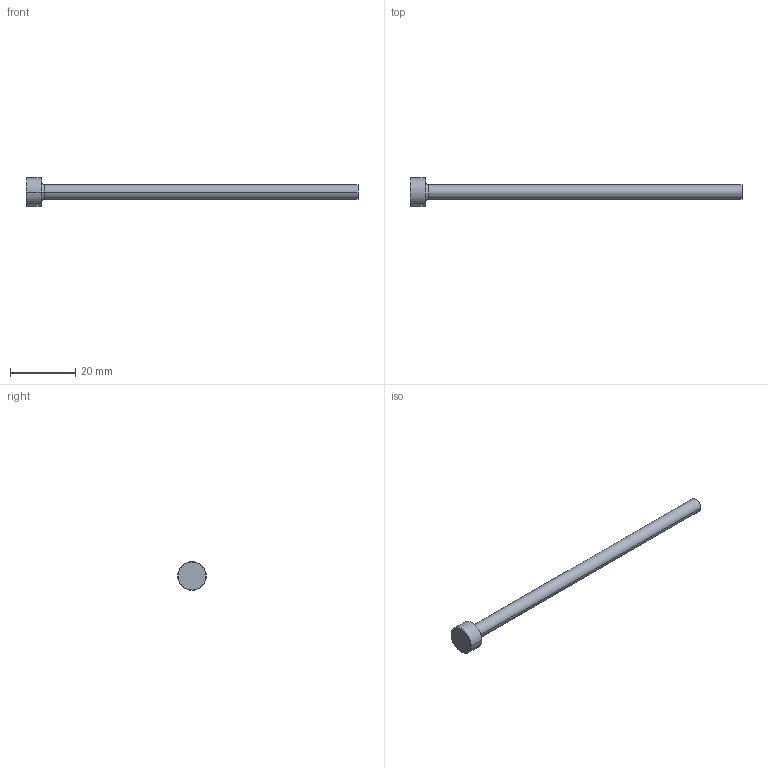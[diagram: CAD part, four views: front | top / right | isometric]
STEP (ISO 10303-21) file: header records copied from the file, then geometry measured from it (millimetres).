
FILE_DESCRIPTION (( 'STEP AP214' ), '1' );
FILE_NAME ('P12-4.STEP', '2020-03-11T18:11:59', ( '' ), ( '' ), 'SwSTEP 2.0', 'SolidWorks 2018', '' );
FILE_SCHEMA (( 'AUTOMOTIVE_DESIGN' ));
Length unit declared in the file: inch
Products named in the file (1): P12-4
Bounding box: 101.6 x 8.73 x 8.73 mm (x, y, z)
Volume: 1731.2 mm3; surface area: 1568.7 mm2
Topology: 1 solids, 1 shells, 13 faces, 24 edges, 14 vertices
Faces by surface type: cone 4, cylinder 4, plane 3, torus 2
Entity records: 366 total; most frequent: DIRECTION 68, CARTESIAN_POINT 52, ORIENTED_EDGE 48, AXIS2_PLACEMENT_3D 30, EDGE_CURVE 24, CIRCLE 16, VERTEX_POINT 14, EDGE_LOOP 14
